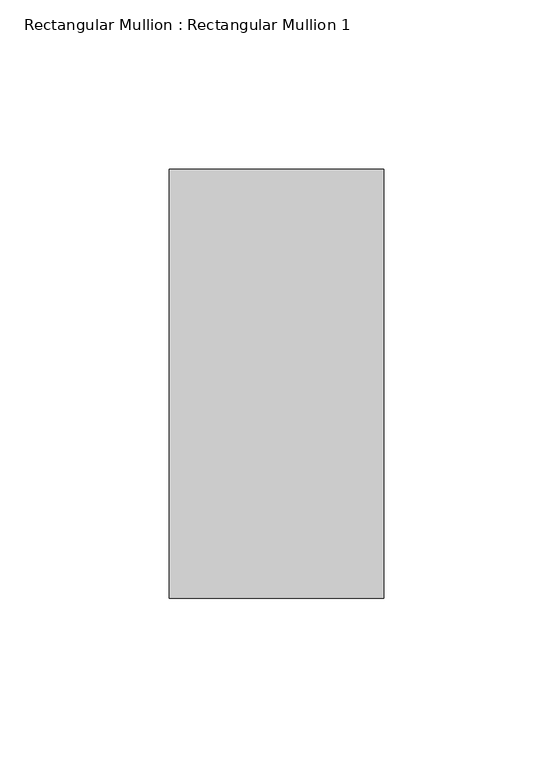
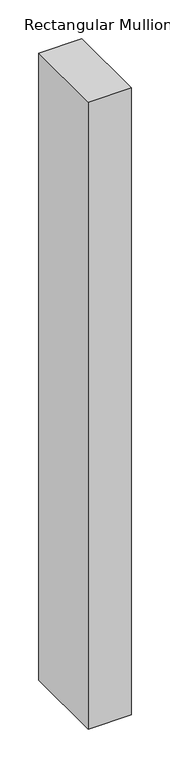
"""IFC4 building model written with IfcOpenShell, lengths in millimetres: member geometry, Rectangular Mullion : Rectangular Mullion 1."""

from ifc_helpers import new_model, si_unit, frame, origin, place, context, project, spatial, polyline, outline, extrude, source, transform, mapped, element, save


def rectangular_mullion_rectangular_mullion_1_342b4b78(model_context):
    return source(origin(), model_context, "Body", "SweptSolid", [
        extrude(outline(polyline([(31.75, 63.5), (31.75, -63.5), (-31.75, -63.5), (-31.75, 63.5), (31.75, 63.5)])), frame((0.0, 0.0, -984.25), z_axis=(0.0, 0.0, 1.0), x_axis=(1.0, 0.0, 0.0)), (0.0, 0.0, 1.0), 984.25),
    ])


if __name__ == "__main__":
    model = new_model("IFC4")
    model_context = context("Model", 3, world=origin())
    ifc_project = project(units=[si_unit("LENGTHUNIT", "METRE", prefix="MILLI")], contexts=[model_context])
    site = spatial("IfcSite", under=ifc_project)
    building = spatial("IfcBuilding", under=site)
    placement = place(None, origin())
    rectangular_mullion_rectangular_mullion_1_shape = rectangular_mullion_rectangular_mullion_1_342b4b78(model_context)
    element("IfcMember", 1, ObjectType="Rectangular Mullion : Rectangular Mullion 1", at=placement, inside=building, context=model_context, shape_type="MappedRepresentation", body=[
        mapped(rectangular_mullion_rectangular_mullion_1_shape, transform((0.0, 0.0, 0.0), x_axis=(1.0, 0.0, 0.0), y_axis=(0.0, 1.0, 0.0), z_axis=(0.0, 0.0, 1.0))),
    ])
    save(model, "model.ifc")
